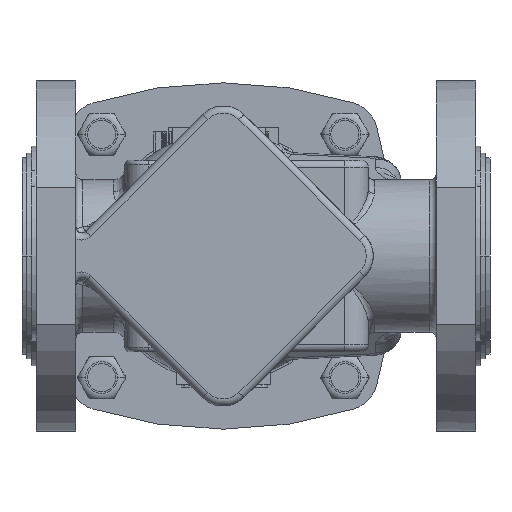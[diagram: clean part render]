
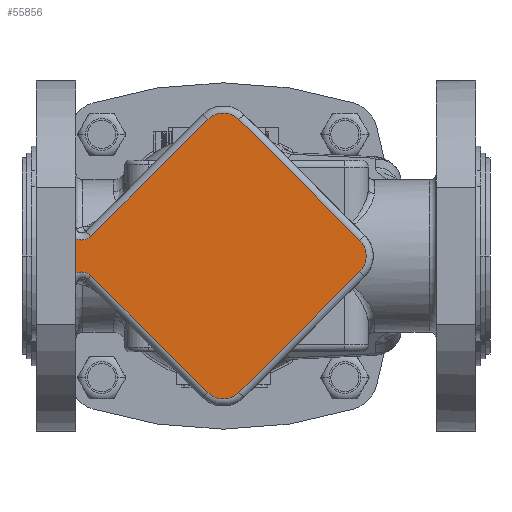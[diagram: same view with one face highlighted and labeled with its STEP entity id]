
A CAD part, front view. The second image highlights one B-rep face of the part: STEP entity #55856.
In plain terms, the highlighted planar face has unit normal (0, -1, 0).
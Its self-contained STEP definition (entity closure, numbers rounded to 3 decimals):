
#13507=CARTESIAN_POINT('',(-60.5,-53.,12.332));
#13508=DIRECTION('',(0.,1.,0.));
#13509=DIRECTION('',(0.707,0.,-0.707));
#13510=AXIS2_PLACEMENT_3D('',#13507,#13508,#13509);
#13512=DIRECTION('',(-0.707,0.,-0.707));
#13513=VECTOR('',#13512,70.56);
#13514=CARTESIAN_POINT('',(-6.718,-53.,58.336));
#13515=LINE('',#13514,#13513);
#13516=CARTESIAN_POINT('',(0.,-53.,51.619));
#13517=DIRECTION('',(0.,-1.,0.));
#13518=DIRECTION('',(0.707,0.,0.707));
#13519=AXIS2_PLACEMENT_3D('',#13516,#13517,#13518);
#13521=DIRECTION('',(-0.707,0.,0.707));
#13522=VECTOR('',#13521,73.);
#13523=CARTESIAN_POINT('',(58.336,-53.,6.718));
#13524=LINE('',#13523,#13522);
#13525=CARTESIAN_POINT('',(51.619,-53.,0.));
#13526=DIRECTION('',(0.,-1.,0.));
#13527=DIRECTION('',(0.707,0.,-0.707));
#13528=AXIS2_PLACEMENT_3D('',#13525,#13526,#13527);
#13530=DIRECTION('',(0.707,0.,0.707));
#13531=VECTOR('',#13530,73.);
#13532=CARTESIAN_POINT('',(6.718,-53.,-58.336));
#13533=LINE('',#13532,#13531);
#13534=CARTESIAN_POINT('',(0.,-53.,-51.619));
#13535=DIRECTION('',(0.,-1.,0.));
#13536=DIRECTION('',(-0.707,0.,-0.707));
#13537=AXIS2_PLACEMENT_3D('',#13534,#13535,#13536);
#13539=DIRECTION('',(0.707,0.,-0.707));
#13540=VECTOR('',#13539,70.56);
#13541=CARTESIAN_POINT('',(-56.611,-53.,-8.443));
#13542=LINE('',#13541,#13540);
#13543=CARTESIAN_POINT('',(-60.5,-53.,-12.332));
#13544=DIRECTION('',(0.,1.,0.));
#13545=DIRECTION('',(-0.455,0.,0.891));
#13546=AXIS2_PLACEMENT_3D('',#13543,#13544,#13545);
#13548=CARTESIAN_POINT('',(-63.,-53.,7.433));
#13617=DIRECTION('',(0.,0.,1.));
#13618=VECTOR('',#13617,14.866);
#13619=CARTESIAN_POINT('',(-63.,-53.,-7.433));
#13620=LINE('',#13619,#13618);
#14588=CARTESIAN_POINT('',(-63.,-53.,-7.433));
#37244=VERTEX_POINT('',#14588);
#37245=VERTEX_POINT('',#13548);
#37420=CARTESIAN_POINT('',(-56.611,-53.,8.443));
#37421=VERTEX_POINT('',#37420);
#37422=CARTESIAN_POINT('',(-6.718,-53.,58.336));
#37423=VERTEX_POINT('',#37422);
#37424=CARTESIAN_POINT('',(6.718,-53.,58.336));
#37425=VERTEX_POINT('',#37424);
#37426=CARTESIAN_POINT('',(58.336,-53.,6.718));
#37427=VERTEX_POINT('',#37426);
#37430=CARTESIAN_POINT('',(58.336,-53.,-6.718));
#37431=VERTEX_POINT('',#37430);
#37434=CARTESIAN_POINT('',(6.718,-53.,-58.336));
#37435=VERTEX_POINT('',#37434);
#37436=CARTESIAN_POINT('',(-6.718,-53.,-58.336));
#37437=VERTEX_POINT('',#37436);
#37438=CARTESIAN_POINT('',(-56.611,-53.,-8.443));
#37439=VERTEX_POINT('',#37438);
#55830=CARTESIAN_POINT('',(0.,-53.,0.));
#55831=DIRECTION('',(0.,-1.,0.));
#55832=DIRECTION('',(-1.,0.,0.));
#55833=AXIS2_PLACEMENT_3D('',#55830,#55831,#55832);
#55834=PLANE('',#55833);
#55836=ORIENTED_EDGE('',*,*,#55835,.F.);
#55838=ORIENTED_EDGE('',*,*,#55837,.F.);
#55839=ORIENTED_EDGE('',*,*,#55820,.F.);
#55841=ORIENTED_EDGE('',*,*,#55840,.F.);
#55843=ORIENTED_EDGE('',*,*,#55842,.F.);
#55845=ORIENTED_EDGE('',*,*,#55844,.F.);
#55847=ORIENTED_EDGE('',*,*,#55846,.F.);
#55849=ORIENTED_EDGE('',*,*,#55848,.F.);
#55851=ORIENTED_EDGE('',*,*,#55850,.F.);
#55853=ORIENTED_EDGE('',*,*,#55852,.T.);
#55854=EDGE_LOOP('',(#55836,#55838,#55839,#55841,#55843,#55845,#55847,#55849,
#55851,#55853));
#55855=FACE_OUTER_BOUND('',#55854,.F.);
#55856=ADVANCED_FACE('',(#55855),#55834,.T.);
#13511=CIRCLE('',#13510,5.5);
#13520=CIRCLE('',#13519,9.5);
#13529=CIRCLE('',#13528,9.5);
#13538=CIRCLE('',#13537,9.5);
#13547=CIRCLE('',#13546,5.5);
#55820=EDGE_CURVE('',#37425,#37423,#13520,.T.);
#55835=EDGE_CURVE('',#37421,#37245,#13511,.T.);
#55837=EDGE_CURVE('',#37423,#37421,#13515,.T.);
#55840=EDGE_CURVE('',#37427,#37425,#13524,.T.);
#55842=EDGE_CURVE('',#37431,#37427,#13529,.T.);
#55844=EDGE_CURVE('',#37435,#37431,#13533,.T.);
#55846=EDGE_CURVE('',#37437,#37435,#13538,.T.);
#55848=EDGE_CURVE('',#37439,#37437,#13542,.T.);
#55850=EDGE_CURVE('',#37244,#37439,#13547,.T.);
#55852=EDGE_CURVE('',#37244,#37245,#13620,.T.);
